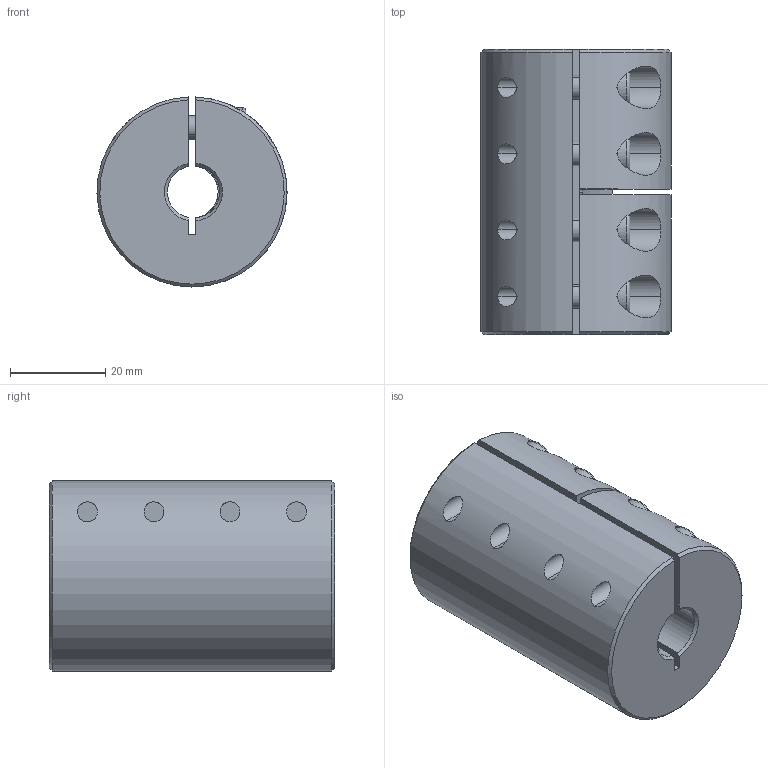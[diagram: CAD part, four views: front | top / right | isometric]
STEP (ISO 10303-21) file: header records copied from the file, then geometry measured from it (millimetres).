
FILE_DESCRIPTION (( 'STEP AP214' ), '1' );
FILE_NAME ('LL-B-D40L60-11-11½¨Ä£.STEP', '2022-07-22T00:55:21', ( '' ), ( '' ), 'SwSTEP 2.0', 'SolidWorks 2022', '' );
FILE_SCHEMA (( 'AUTOMOTIVE_DESIGN' ));
Length unit declared in the file: millimetre
Products named in the file (1): LL-B-D40L60-11-11膘耀
Bounding box: 40 x 60 x 39.99 mm (x, y, z)
Volume: 65989.4 mm3; surface area: 17369.8 mm2
Topology: 1 solids, 1 shells, 182 faces, 463 edges, 291 vertices
Faces by surface type: plane 88, cylinder 71, cone 15, torus 8
Entity records: 6015 total; most frequent: CARTESIAN_POINT 1525, DIRECTION 971, ORIENTED_EDGE 910, EDGE_CURVE 455, AXIS2_PLACEMENT_3D 377, VERTEX_POINT 291, VECTOR 217, LINE 217
